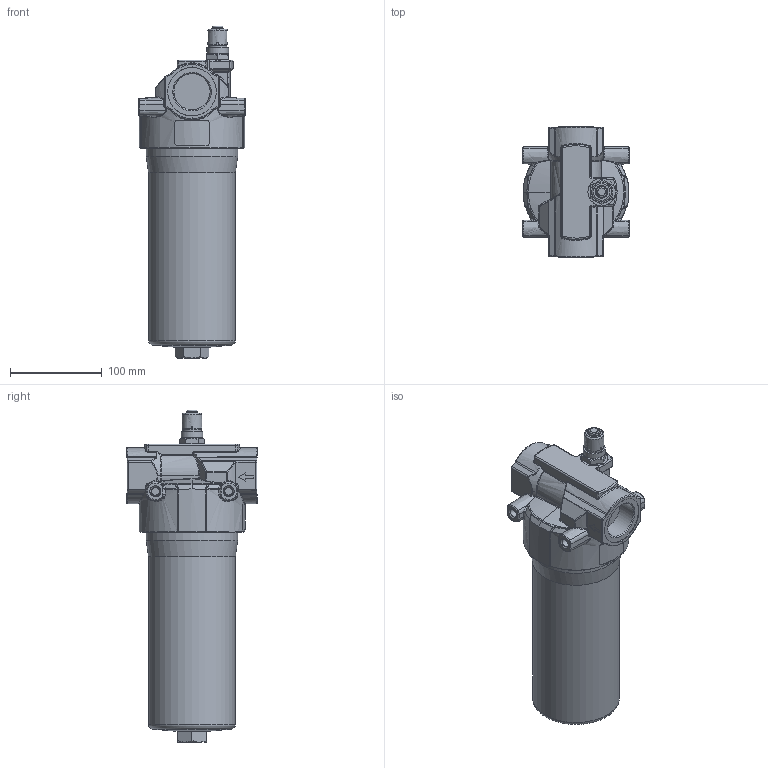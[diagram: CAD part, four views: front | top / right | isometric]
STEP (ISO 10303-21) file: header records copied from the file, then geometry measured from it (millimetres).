
FILE_DESCRIPTION((''),'2;1');
FILE_NAME('U:\Users\i.maeder\34421300_D232-256OD1.stp', '2016-10-25T08:16:04',('User'),('SDRC'),'I-DEAS Master Series 9','UNIX', 'Yes');
FILE_SCHEMA(('AUTOMOTIVE_DESIGN { 1 0 10303 214 1 1 1 1 }'));
Length unit declared in the file: millimetre
Products named in the file (1): 34421300
Bounding box: 116 x 143 x 362.8 mm (x, y, z)
Volume: 2462262 mm3; surface area: 138235 mm2
Topology: 1 solids, 3 shells, 666 faces, 1591 edges, 920 vertices
Faces by surface type: bspline 666
Entity records: 25478 total; most frequent: CARTESIAN_POINT 16588, ORIENTED_EDGE 3128, EDGE_CURVE 1564, B_SPLINE_CURVE_WITH_KNOTS 963, VERTEX_POINT 920, EDGE_LOOP 682, FACE_OUTER_BOUND 666, ADVANCED_FACE 666
